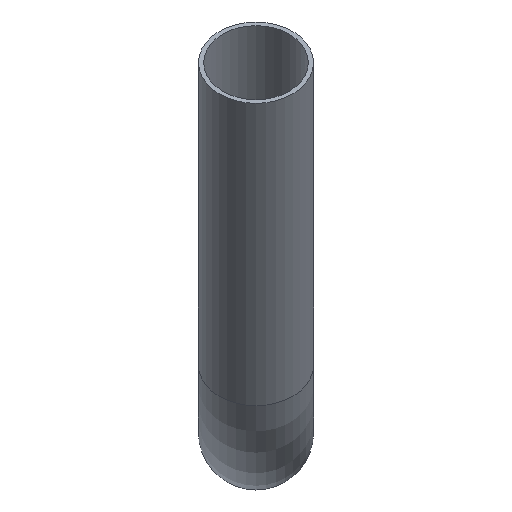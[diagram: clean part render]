
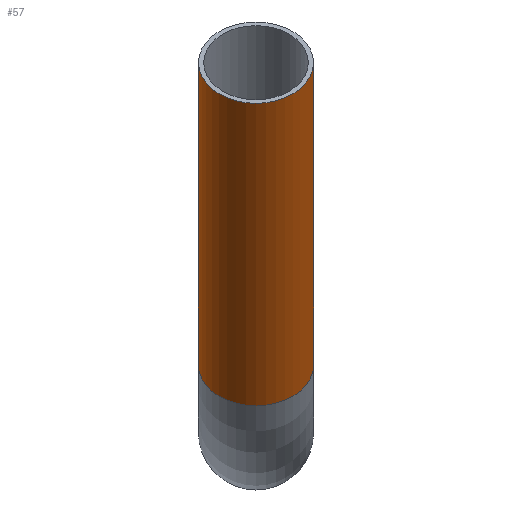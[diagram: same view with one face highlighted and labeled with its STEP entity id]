
A CAD part, front view. The second image highlights one B-rep face of the part: STEP entity #57.
In plain terms, the highlighted cylindrical face has radius 11 mm (diameter 22 mm), a full revolution.
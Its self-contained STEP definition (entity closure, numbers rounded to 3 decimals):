
#57=ADVANCED_FACE('',(#97,#99),#101,.T.);
#97=FACE_OUTER_BOUND('',#98,.T.);
#98=EDGE_LOOP('',(#141));
#99=FACE_OUTER_BOUND('',#100,.T.);
#100=EDGE_LOOP('',(#142));
#101=CYLINDRICAL_SURFACE('',#102,11.);
#102=AXIS2_PLACEMENT_3D('',#103,#104,#105);
#103=CARTESIAN_POINT('',(0.,-12.887,12.887));
#104=DIRECTION('',(0.,-0.707,0.707));
#105=DIRECTION('',(-1.,0.,0.));
#141=ORIENTED_EDGE('',*,*,#153,.T.);
#142=ORIENTED_EDGE('',*,*,#155,.F.);
#153=EDGE_CURVE('',#165,#165,#166,.T.);
#155=EDGE_CURVE('',#169,#169,#170,.T.);
#165=VERTEX_POINT('',#193);
#166=CIRCLE('',#194,11.);
#169=VERTEX_POINT('',#203);
#170=CIRCLE('',#204,11.);
#193=CARTESIAN_POINT('',(-11.,-12.887,12.887));
#194=AXIS2_PLACEMENT_3D('',#195,#196,#197);
#195=CARTESIAN_POINT('',(0.,-12.887,12.887));
#196=DIRECTION('',(0.,-0.707,0.707));
#197=DIRECTION('',(-1.,0.,0.));
#203=CARTESIAN_POINT('',(-11.,-70.711,70.711));
#204=AXIS2_PLACEMENT_3D('',#205,#206,#207);
#205=CARTESIAN_POINT('',(0.,-70.711,70.711));
#206=DIRECTION('',(0.,-0.707,0.707));
#207=DIRECTION('',(-1.,0.,0.));
